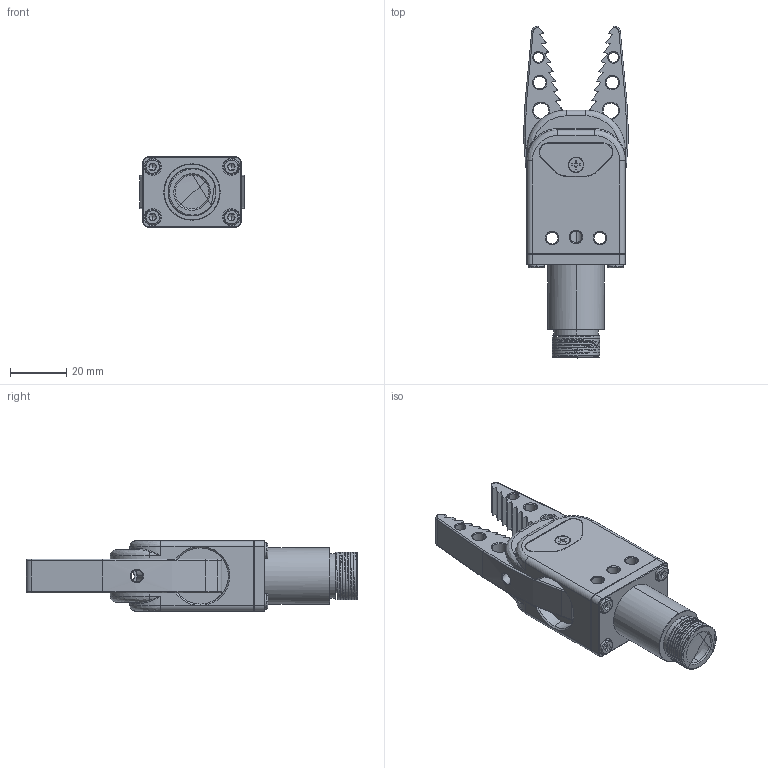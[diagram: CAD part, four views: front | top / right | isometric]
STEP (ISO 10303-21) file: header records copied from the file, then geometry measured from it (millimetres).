
FILE_DESCRIPTION (( 'STEP AP203' ), '1' );
FILE_NAME ('GR20I-20.STEP', '2024-07-24T07:35:37', ( '微软用户' ), ( '微软中国' ), 'SwSTEP 2.0', 'SolidWorks 2018', '' );
FILE_SCHEMA (( 'CONFIG_CONTROL_DESIGN' ));
Length unit declared in the file: millimetre
Products named in the file (1): GR20I-20
Bounding box: 37.2 x 118.06 x 25 mm (x, y, z)
Surface area: 20835.6 mm2 (no closed solid volume)
Topology: 0 solids, 17 shells, 829 faces, 2017 edges, 1205 vertices
Faces by surface type: cylinder 270, cone 239, plane 235, bspline 85
Entity records: 65881 total; most frequent: CARTESIAN_POINT 47526, ORIENTED_EDGE 3961, DIRECTION 3510, EDGE_CURVE 1990, AXIS2_PLACEMENT_3D 1288, VERTEX_POINT 1199, LINE 934, VECTOR 934
